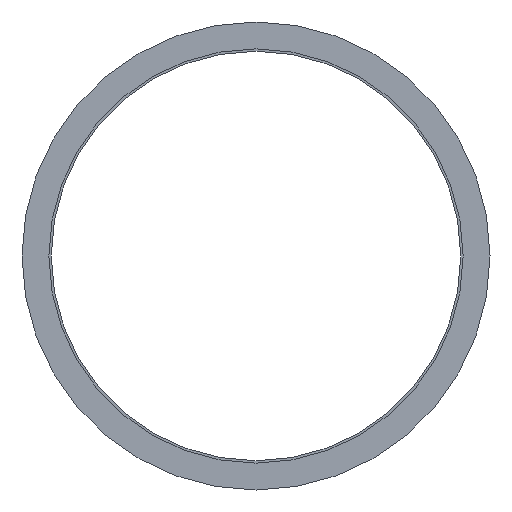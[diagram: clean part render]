
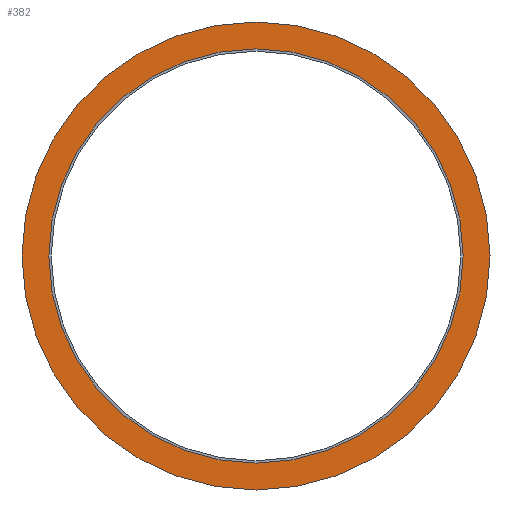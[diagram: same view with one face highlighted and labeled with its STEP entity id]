
A CAD part, left-side view. The second image highlights one B-rep face of the part: STEP entity #382.
In plain terms, the highlighted planar face has unit normal (-1, 0, 0).
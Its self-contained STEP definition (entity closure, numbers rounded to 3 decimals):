
#1 = CARTESIAN_POINT ( 'NONE',  ( -3.605, -0.1, -20. ) ) ;
#43 = DIRECTION ( 'NONE',  ( 1., 0., 0. ) ) ;
#48 = CIRCLE ( 'NONE', #91, 20. ) ;
#50 = DIRECTION ( 'NONE',  ( 0., 0., -1. ) ) ;
#55 = ORIENTED_EDGE ( 'NONE', *, *, #290, .T. ) ;
#58 = DIRECTION ( 'NONE',  ( 1., 0., 0. ) ) ;
#60 = DIRECTION ( 'NONE',  ( 0., 0., -1. ) ) ;
#65 = CARTESIAN_POINT ( 'NONE',  ( -3.605, -0.1, 0. ) ) ;
#77 = CIRCLE ( 'NONE', #318, 17.7 ) ;
#91 = AXIS2_PLACEMENT_3D ( 'NONE', #265, #43, #60 ) ;
#107 = DIRECTION ( 'NONE',  ( 1., 0., 0. ) ) ;
#109 = AXIS2_PLACEMENT_3D ( 'NONE', #124, #277, #200 ) ;
#111 = PLANE ( 'NONE',  #109 ) ;
#114 = VERTEX_POINT ( 'NONE', #212 ) ;
#120 = ORIENTED_EDGE ( 'NONE', *, *, #250, .F. ) ;
#124 = CARTESIAN_POINT ( 'NONE',  ( -3.605, -0.1, 0. ) ) ;
#154 = VERTEX_POINT ( 'NONE', #326 ) ;
#161 = CARTESIAN_POINT ( 'NONE',  ( -3.605, -0.1, -17.7 ) ) ;
#172 = DIRECTION ( 'NONE',  ( 0., 0., -1. ) ) ;
#173 = DIRECTION ( 'NONE',  ( 1., 0., 0. ) ) ;
#174 = CARTESIAN_POINT ( 'NONE',  ( -3.605, -0.1, 0. ) ) ;
#200 = DIRECTION ( 'NONE',  ( 0., 0., 1. ) ) ;
#204 = EDGE_LOOP ( 'NONE', ( #402, #55 ) ) ;
#207 = CARTESIAN_POINT ( 'NONE',  ( -3.605, -0.1, 0. ) ) ;
#212 = CARTESIAN_POINT ( 'NONE',  ( -3.605, -0.1, 20. ) ) ;
#218 = DIRECTION ( 'NONE',  ( 0., 0., -1. ) ) ;
#228 = EDGE_CURVE ( 'NONE', #114, #390, #48, .T. ) ;
#230 = FACE_BOUND ( 'NONE', #204, .T. ) ;
#235 = EDGE_CURVE ( 'NONE', #286, #154, #255, .T. ) ;
#250 = EDGE_CURVE ( 'NONE', #390, #114, #309, .T. ) ;
#255 = CIRCLE ( 'NONE', #348, 17.7 ) ;
#265 = CARTESIAN_POINT ( 'NONE',  ( -3.605, -0.1, 0. ) ) ;
#277 = DIRECTION ( 'NONE',  ( -1., 0., 0. ) ) ;
#286 = VERTEX_POINT ( 'NONE', #161 ) ;
#290 = EDGE_CURVE ( 'NONE', #154, #286, #77, .T. ) ;
#298 = ORIENTED_EDGE ( 'NONE', *, *, #228, .F. ) ;
#309 = CIRCLE ( 'NONE', #359, 20. ) ;
#318 = AXIS2_PLACEMENT_3D ( 'NONE', #65, #58, #50 ) ;
#326 = CARTESIAN_POINT ( 'NONE',  ( -3.605, -0.1, 17.7 ) ) ;
#348 = AXIS2_PLACEMENT_3D ( 'NONE', #207, #107, #218 ) ;
#359 = AXIS2_PLACEMENT_3D ( 'NONE', #174, #173, #172 ) ;
#382 = ADVANCED_FACE ( 'NONE', ( #230, #388 ), #111, .T. ) ;
#388 = FACE_OUTER_BOUND ( 'NONE', #399, .T. ) ;
#390 = VERTEX_POINT ( 'NONE', #1 ) ;
#399 = EDGE_LOOP ( 'NONE', ( #120, #298 ) ) ;
#402 = ORIENTED_EDGE ( 'NONE', *, *, #235, .T. ) ;
